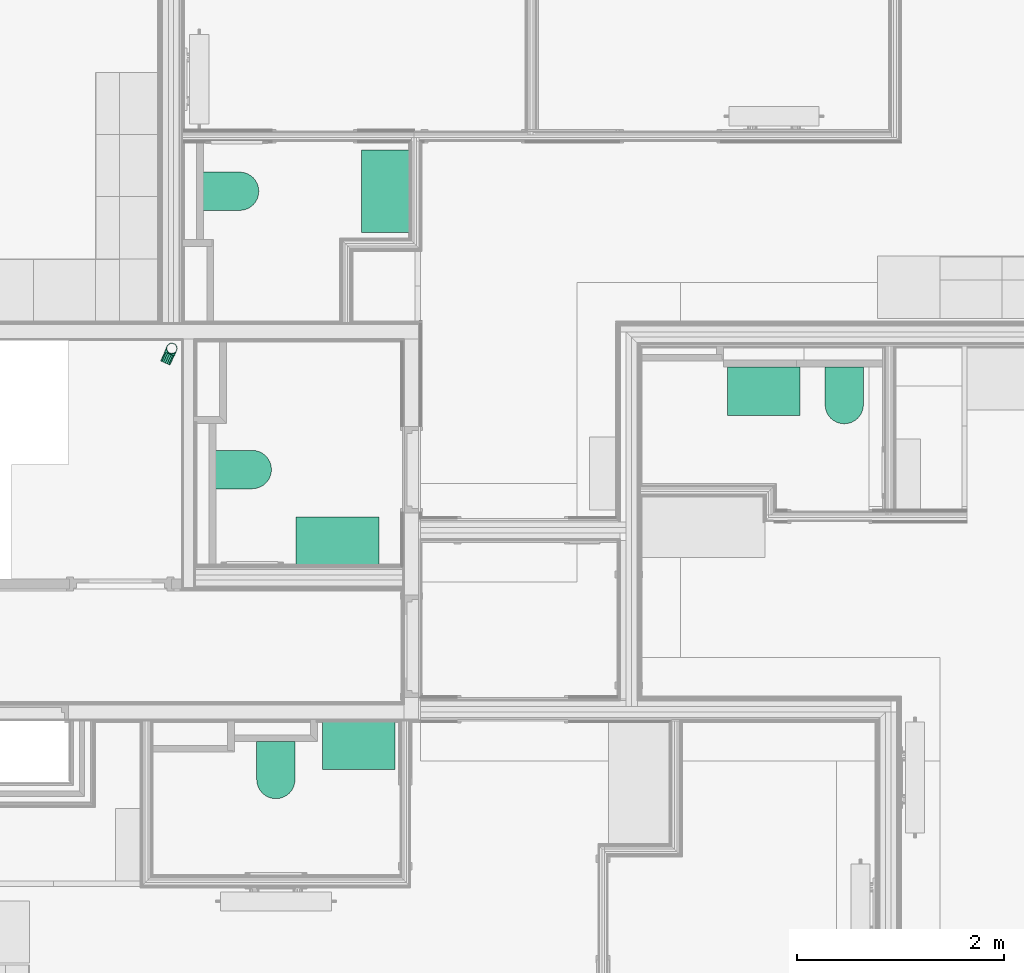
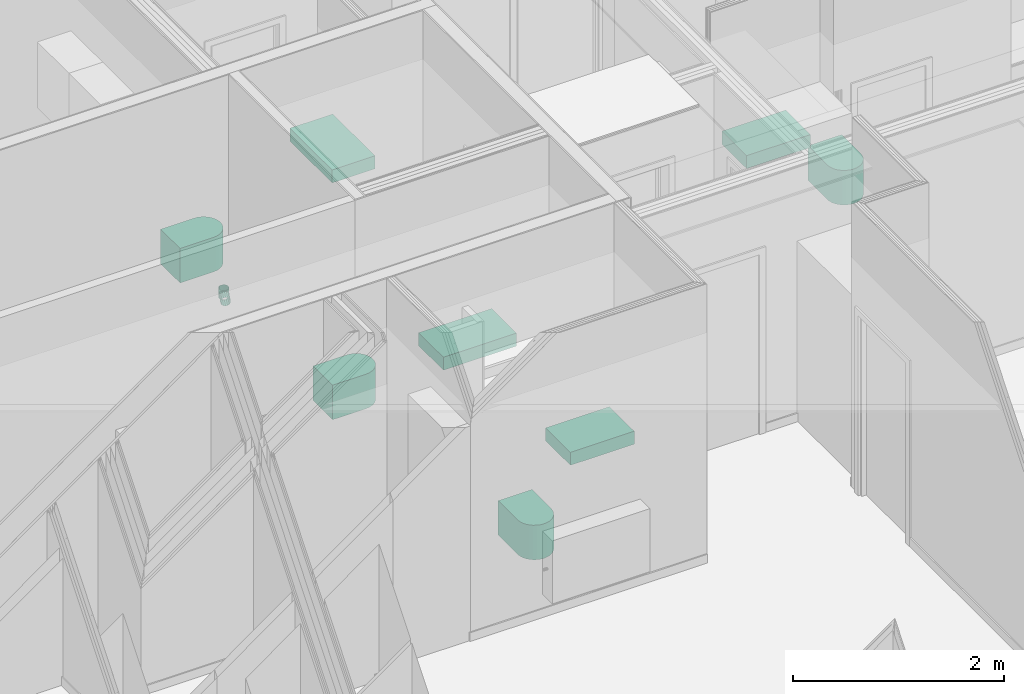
# One storey, part 61 of 64: 8 flow terminals, 1 flow fitting, 1 flow segment.
"""IFC2X3 building model written with IfcOpenShell, lengths in metres."""

import ifcopenshell
import ifcopenshell.guid

model = None  # the IFC model being written
_history = None  # IfcOwnerHistory: only IFC2X3 demands one
_inside = {}  # id of a spatial element -> (the spatial element, [elements in it])
_under = {}  # id of a project, library or spatial element -> (it, [spatial elements below it])
_declared = {}  # id of a project -> (the project, [libraries it declares])
_typed = {}  # id of a type object -> (the type object, [elements of that type])
_made_of = {}  # id of a material, layer set ... -> (it, [elements and type objects made of it])


def new_model(schema):
    """Start an empty IFC model of exactly this schema.

    Asked for "IFC4X3", IfcOpenShell would pick the latest addendum, in which some entities
    have other attributes; the version numbers below select the first issue.
    IFC2X3 requires an IfcOwnerHistory on every rooted entity: one is made here for all.
    """
    global model, _history
    if schema == "IFC4X3":
        model = ifcopenshell.file(schema_version=(4, 3, 0, 0))
    else:
        model = ifcopenshell.file(schema=schema)
    _inside.clear()
    _under.clear()
    _declared.clear()
    _typed.clear()
    _made_of.clear()
    _history = None
    if model.schema == "IFC2X3":
        org = make("IfcOrganization", Name="unknown")
        user = make(
            "IfcPersonAndOrganization",
            ThePerson=make("IfcPerson", FamilyName="unknown"),
            TheOrganization=org,
        )
        app = make(
            "IfcApplication",
            ApplicationDeveloper=org,
            Version="unknown",
            ApplicationFullName="unknown",
            ApplicationIdentifier="unknown",
        )
        _history = make(
            "IfcOwnerHistory",
            OwningUser=user,
            OwningApplication=app,
            ChangeAction="ADDED",
            CreationDate=0,
        )
    return model


def make(cls, **values):
    """One entity of the class cls with the attributes given. An attribute that is None is left unset."""
    return model.create_entity(
        cls, **{name: value for name, value in values.items() if value is not None}
    )


def entity(cls, *values):
    """Any entity or typed value of the class cls, its attributes in the order of the schema. None: left unset."""
    e = model.create_entity(cls)
    for i, value in enumerate(values):
        if value is not None:
            e[i] = value
    return e


def rooted(cls, **values):
    """An entity with a GlobalId (a new one), such as an element, a storey or a relation."""
    return make(cls, GlobalId=ifcopenshell.guid.new(), OwnerHistory=_history, **values)


def si_unit(unit_type, name, prefix=None):
    """IfcSIUnit, for example si_unit("LENGTHUNIT", "METRE", prefix="MILLI")."""
    return make("IfcSIUnit", UnitType=unit_type, Prefix=prefix, Name=name)


def converted_unit(unit_type, name, factor, base, dimensions=None, offset=None):
    """IfcConversionBasedUnit, such as the inch: factor (a typed value) times the base unit."""
    return make(
        "IfcConversionBasedUnit"
        if offset is None
        else "IfcConversionBasedUnitWithOffset",
        ConversionOffset=offset,
        Dimensions=None
        if dimensions is None
        else entity("IfcDimensionalExponents", *dimensions),
        UnitType=unit_type,
        Name=name,
        ConversionFactor=make(
            "IfcMeasureWithUnit", ValueComponent=factor, UnitComponent=base
        ),
    )


def derived_unit(unit_type, elements):
    """IfcDerivedUnit: a product of units, each with its exponent."""
    return make(
        "IfcDerivedUnit",
        Elements=[
            make("IfcDerivedUnitElement", Unit=unit, Exponent=power)
            for unit, power in elements
        ],
        UnitType=unit_type,
    )


def money_unit(currency):
    """IfcMonetaryUnit."""
    return make("IfcMonetaryUnit", Currency=currency)


def assignment(units):
    """IfcUnitAssignment: the units of a project."""
    return None if units is None else make("IfcUnitAssignment", Units=units)


def point(xyz):
    """IfcCartesianPoint."""
    return None if xyz is None else make("IfcCartesianPoint", Coordinates=xyz)


def direction(xyz):
    """IfcDirection."""
    return None if xyz is None else make("IfcDirection", DirectionRatios=xyz)


def frame(location, z_axis=None, x_axis=None):
    """IfcAxis2Placement3D, a coordinate frame: its origin and axes. An axis left out is left unset."""
    return make(
        "IfcAxis2Placement3D",
        Location=point(location),
        Axis=direction(z_axis),
        RefDirection=direction(x_axis),
    )


def origin_with_axes():
    """The frame at (0, 0, 0) with the z axis (0, 0, 1) and the x axis (1, 0, 0) written out."""
    return frame((0.0, 0.0, 0.0), z_axis=(0.0, 0.0, 1.0), x_axis=(1.0, 0.0, 0.0))


def place(relative_to, where):
    """IfcLocalPlacement: puts the frame where relative to a parent placement (None: the world)."""
    return make(
        "IfcLocalPlacement", PlacementRelTo=relative_to, RelativePlacement=where
    )


def context(
    kind, dimensions, precision=None, world=None, true_north=None, identifier=None
):
    """IfcGeometricRepresentationContext, for example the 3D "Model" context."""
    return make(
        "IfcGeometricRepresentationContext",
        ContextIdentifier=identifier,
        ContextType=kind,
        CoordinateSpaceDimension=dimensions,
        Precision=precision,
        WorldCoordinateSystem=world,
        TrueNorth=true_north,
    )


def subcontext(parent, identifier, kind, view, scale=None):
    """IfcGeometricRepresentationSubContext, for example "Body" below "Model"."""
    return make(
        "IfcGeometricRepresentationSubContext",
        ContextIdentifier=identifier,
        ContextType=kind,
        ParentContext=parent,
        TargetScale=scale,
        TargetView=view,
    )


def project(units=None, contexts=None):
    """IfcProject with its units and contexts."""
    return rooted(
        "IfcProject",
        Name="project",
        RepresentationContexts=contexts,
        UnitsInContext=assignment(units),
    )


def spatial(cls, under=None, at=None, **own):
    """A site, building, storey or space (cls), placed at a placement, below another one or the project."""
    s = rooted(cls, ObjectPlacement=at, **own)
    if under is not None:
        _under.setdefault(under.id(), (under, []))[1].append(s)
    return s


def faces_of(points, faces, orient=None, outer=None):
    """IfcFace entities. A face is a list of loops; a loop is a list of indices into points, from 0.

    orient and outer hold one flag for each loop. By default every Orientation is true, the
    first loop of a face is its IfcFaceOuterBound and the others are IfcFaceBound.
    """
    made = []
    for i, loops in enumerate(faces):
        bounds = []
        for j, loop in enumerate(loops):
            is_outer = j == 0 if outer is None else outer[i][j]
            bounds.append(
                make(
                    "IfcFaceOuterBound" if is_outer else "IfcFaceBound",
                    Bound=make("IfcPolyLoop", Polygon=[points[k] for k in loop]),
                    Orientation=True if orient is None else orient[i][j],
                )
            )
        made.append(make("IfcFace", Bounds=bounds))
    return made


def open_shell(faces, orient=None, outer=None):
    """The faces of one IfcOpenShell. surface_model builds it on its shared points."""
    return ("IfcOpenShell", faces, orient, outer)


def faceted_brep(points, faces, orient=None, outer=None, voids=None):
    """IfcFacetedBrep: a solid bounded by flat faces; with voids (closed shells), ...WithVoids."""
    shared = [point(p) for p in points]
    hull = make("IfcClosedShell", CfsFaces=faces_of(shared, faces, orient, outer))
    if voids is None:
        return make("IfcFacetedBrep", Outer=hull)
    return make(
        "IfcFacetedBrepWithVoids",
        Outer=hull,
        Voids=[
            make(cls, CfsFaces=faces_of(shared, fs, o, b)) for cls, fs, o, b in voids
        ],
    )


def surface_model(cls, points, shells):
    """IfcFaceBasedSurfaceModel or IfcShellBasedSurfaceModel (cls): surfaces that need not close."""
    shared = [point(p) for p in points]
    made = [make(c, CfsFaces=faces_of(shared, fs, o, b)) for c, fs, o, b in shells]
    if cls == "IfcFaceBasedSurfaceModel":
        return make(cls, FbsmFaces=made)
    return make(cls, SbsmBoundary=made)


def shape(context_of_items, identifier, shape_type, items):
    """IfcShapeRepresentation: the items that make up one representation, for example the "Body"."""
    return make(
        "IfcShapeRepresentation",
        ContextOfItems=context_of_items,
        RepresentationIdentifier=identifier,
        RepresentationType=shape_type,
        Items=items,
    )


def material(Name=None, Category=None):
    """IfcMaterial."""
    return make("IfcMaterial", Name=Name, Category=Category)


def made_of(thing, what):
    """Note that an element or type object is made of a material, layer set ...; save() writes the relation."""
    if what is not None:
        _made_of.setdefault(what.id(), (what, []))[1].append(thing)
    return thing


def type_object(cls, material=None, **own):
    """A type object (cls), such as IfcWallType, which elements share."""
    return made_of(rooted(cls, **own), material)


def element(
    cls,
    number,
    at=None,
    inside=None,
    cuts=None,
    type_object=None,
    material=None,
    context=None,
    identifier="Body",
    shape_type=None,
    held_by="IfcProductDefinitionShape",
    body=None,
    shapes=None,
    **own,
):
    """One element of the class cls, such as IfcWall. Its Tag is "e" and its number.

    at: its placement. inside: the storey or other place that contains it. cuts: it is an
    opening in that element (IfcRelVoidsElement). A single representation is given by context,
    identifier, shape_type and body (its items); several are given by shapes. held_by: the class
    of the entity that holds the representations. save() writes the other relations.
    """
    e = rooted(cls, Tag="e%d" % number, ObjectPlacement=at, **own)
    if body is not None:
        shapes = [shape(context, identifier, shape_type, body)]
    if shapes is not None:
        e.Representation = make(held_by, Representations=shapes)
    if inside is not None:
        _inside.setdefault(inside.id(), (inside, []))[1].append(e)
    if cuts is not None:
        rooted(
            "IfcRelVoidsElement", RelatingBuildingElement=cuts, RelatedOpeningElement=e
        )
    if type_object is not None:
        _typed.setdefault(type_object.id(), (type_object, []))[1].append(e)
    return made_of(e, material)


def aggregate(whole, parts):
    """IfcRelAggregates: a whole, such as a stair, and the parts it consists of."""
    return rooted("IfcRelAggregates", RelatingObject=whole, RelatedObjects=parts)


def save(model, path):
    """Write the relations noted so far, then the file.

    IfcRelAggregates (storeys below a building ...), IfcRelContainedInSpatialStructure (elements
    in a storey), IfcRelDefinesByType, IfcRelAssociatesMaterial and IfcRelDeclares: one each for
    every whole, place, type object, material and project.
    """
    for whole, parts in _under.values():
        aggregate(whole, parts)
    for where, things in _inside.values():
        rooted(
            "IfcRelContainedInSpatialStructure",
            RelatedElements=things,
            RelatingStructure=where,
        )
    for kind, things in _typed.values():
        rooted("IfcRelDefinesByType", RelatedObjects=things, RelatingType=kind)
    for what, things in _made_of.values():
        rooted("IfcRelAssociatesMaterial", RelatedObjects=things, RelatingMaterial=what)
    for by, libraries in _declared.values():
        rooted("IfcRelDeclares", RelatingContext=by, RelatedDefinitions=libraries)
    model.write(path)


model = new_model("IFC2X3")

# Units and contexts
model_context = context("Model", 3, precision=1e-05, world=origin_with_axes(), true_north=direction((0.0, 1.0)))
body_context = subcontext(model_context, "Body", "Model", "MODEL_VIEW", scale=1.0)
ifc_project = project(units=[si_unit("LENGTHUNIT", "METRE"), si_unit("AREAUNIT", "SQUARE_METRE"), si_unit("VOLUMEUNIT", "CUBIC_METRE"), si_unit("ABSORBEDDOSEUNIT", "GRAY"), si_unit("AMOUNTOFSUBSTANCEUNIT", "MOLE"), si_unit("DOSEEQUIVALENTUNIT", "SIEVERT"), si_unit("ELECTRICCAPACITANCEUNIT", "FARAD"), si_unit("ELECTRICCHARGEUNIT", "COULOMB"), si_unit("ELECTRICCONDUCTANCEUNIT", "SIEMENS"), si_unit("ELECTRICCURRENTUNIT", "AMPERE"), si_unit("ELECTRICRESISTANCEUNIT", "OHM"), si_unit("ELECTRICVOLTAGEUNIT", "VOLT"), si_unit("ENERGYUNIT", "JOULE"), si_unit("FORCEUNIT", "NEWTON"), si_unit("FREQUENCYUNIT", "HERTZ"), si_unit("ILLUMINANCEUNIT", "LUX"), si_unit("INDUCTANCEUNIT", "HENRY"), si_unit("LUMINOUSFLUXUNIT", "LUMEN"), si_unit("LUMINOUSINTENSITYUNIT", "CANDELA"), si_unit("MAGNETICFLUXDENSITYUNIT", "TESLA"), si_unit("MAGNETICFLUXUNIT", "WEBER"), si_unit("MASSUNIT", "GRAM"), converted_unit("PLANEANGLEUNIT", "degree", entity("IfcReal", 0.0174532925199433), si_unit("PLANEANGLEUNIT", "RADIAN"), dimensions=[0, 0, 0, 0, 0, 0, 0]), si_unit("POWERUNIT", "WATT"), si_unit("PRESSUREUNIT", "PASCAL"), si_unit("RADIOACTIVITYUNIT", "BECQUEREL"), si_unit("SOLIDANGLEUNIT", "STERADIAN"), si_unit("THERMODYNAMICTEMPERATUREUNIT", "KELVIN"), si_unit("TIMEUNIT", "SECOND"), derived_unit("ACCELERATIONUNIT", [(si_unit("LENGTHUNIT", "METRE"), 1), (si_unit("TIMEUNIT", "SECOND"), -2)]), derived_unit("ANGULARVELOCITYUNIT", [(converted_unit("PLANEANGLEUNIT", "degree", entity("IfcReal", 0.0174532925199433), si_unit("PLANEANGLEUNIT", "RADIAN"), dimensions=[0, 0, 0, 0, 0, 0, 0]), 1), (si_unit("TIMEUNIT", "SECOND"), -1)]), derived_unit("CURVATUREUNIT", [(converted_unit("PLANEANGLEUNIT", "degree", entity("IfcReal", 0.0174532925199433), si_unit("PLANEANGLEUNIT", "RADIAN"), dimensions=[0, 0, 0, 0, 0, 0, 0]), 1), (si_unit("LENGTHUNIT", "METRE"), -1)]), derived_unit("DYNAMICVISCOSITYUNIT", [(si_unit("PRESSUREUNIT", "PASCAL"), 1), (si_unit("TIMEUNIT", "SECOND"), 1)]), derived_unit("HEATFLUXDENSITYUNIT", [(si_unit("POWERUNIT", "WATT"), 1), (si_unit("LENGTHUNIT", "METRE"), -2)]), derived_unit("HEATINGVALUEUNIT", [(si_unit("ENERGYUNIT", "JOULE"), 1), (si_unit("MASSUNIT", "GRAM"), -1)]), derived_unit("INTEGERCOUNTRATEUNIT", [(si_unit("TIMEUNIT", "SECOND"), -1)]), derived_unit("IONCONCENTRATIONUNIT", [(si_unit("MASSUNIT", "GRAM"), 1), (si_unit("VOLUMEUNIT", "CUBIC_METRE"), -1)]), derived_unit("ISOTHERMALMOISTURECAPACITYUNIT", [(si_unit("VOLUMEUNIT", "CUBIC_METRE"), 1), (si_unit("MASSUNIT", "GRAM"), -1)]), derived_unit("KINEMATICVISCOSITYUNIT", [(si_unit("AREAUNIT", "SQUARE_METRE"), 1), (si_unit("TIMEUNIT", "SECOND"), -1)]), derived_unit("LINEARFORCEUNIT", [(si_unit("FORCEUNIT", "NEWTON"), 1), (si_unit("LENGTHUNIT", "METRE"), -1)]), derived_unit("LINEARMOMENTUNIT", [(si_unit("FORCEUNIT", "NEWTON"), 1), (si_unit("LENGTHUNIT", "METRE"), -1)]), derived_unit("LINEARSTIFFNESSUNIT", [(si_unit("FORCEUNIT", "NEWTON"), 1), (si_unit("LENGTHUNIT", "METRE"), -1)]), derived_unit("LINEARVELOCITYUNIT", [(si_unit("LENGTHUNIT", "METRE"), 1), (si_unit("TIMEUNIT", "SECOND"), -1)]), derived_unit("LUMINOUSINTENSITYDISTRIBUTIONUNIT", [(si_unit("LUMINOUSINTENSITYUNIT", "CANDELA"), 1), (si_unit("LUMINOUSFLUXUNIT", "LUMEN"), -1)]), derived_unit("MASSDENSITYUNIT", [(si_unit("MASSUNIT", "GRAM"), 1), (si_unit("VOLUMEUNIT", "CUBIC_METRE"), -1)]), derived_unit("MASSFLOWRATEUNIT", [(si_unit("MASSUNIT", "GRAM"), 1), (si_unit("TIMEUNIT", "SECOND"), -1)]), derived_unit("MASSPERLENGTHUNIT", [(si_unit("MASSUNIT", "GRAM"), 1), (si_unit("LENGTHUNIT", "METRE"), -1)]), derived_unit("MODULUSOFELASTICITYUNIT", [(si_unit("FORCEUNIT", "NEWTON"), 1), (si_unit("AREAUNIT", "SQUARE_METRE"), -1)]), derived_unit("MODULUSOFLINEARSUBGRADEREACTIONUNIT", [(si_unit("FORCEUNIT", "NEWTON"), 1), (si_unit("LENGTHUNIT", "METRE"), -2)]), derived_unit("MODULUSOFROTATIONALSUBGRADEREACTIONUNIT", [(si_unit("FORCEUNIT", "NEWTON"), 1), (si_unit("LENGTHUNIT", "METRE"), 1)]), derived_unit("MODULUSOFSUBGRADEREACTIONUNIT", [(si_unit("FORCEUNIT", "NEWTON"), 1), (si_unit("VOLUMEUNIT", "CUBIC_METRE"), -1)]), derived_unit("MOISTUREDIFFUSIVITYUNIT", [(si_unit("VOLUMEUNIT", "CUBIC_METRE"), 1), (si_unit("TIMEUNIT", "SECOND"), -1)]), derived_unit("MOLECULARWEIGHTUNIT", [(si_unit("MASSUNIT", "GRAM"), 1), (si_unit("AMOUNTOFSUBSTANCEUNIT", "MOLE"), -1)]), derived_unit("PLANARFORCEUNIT", [(si_unit("FORCEUNIT", "NEWTON"), 1), (si_unit("LENGTHUNIT", "METRE"), -2)]), derived_unit("ROTATIONALFREQUENCYUNIT", [(si_unit("TIMEUNIT", "SECOND"), -1)]), derived_unit("ROTATIONALMASSUNIT", [(si_unit("MASSUNIT", "GRAM"), 1), (si_unit("LENGTHUNIT", "METRE"), 2)]), derived_unit("ROTATIONALSTIFFNESSUNIT", [(si_unit("FORCEUNIT", "NEWTON"), 1), (si_unit("LENGTHUNIT", "METRE"), 1), (converted_unit("PLANEANGLEUNIT", "degree", entity("IfcReal", 0.0174532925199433), si_unit("PLANEANGLEUNIT", "RADIAN"), dimensions=[0, 0, 0, 0, 0, 0, 0]), -1)]), derived_unit("SECTIONAREAINTEGRALUNIT", [(si_unit("LENGTHUNIT", "METRE"), 5)]), derived_unit("SECTIONMODULUSUNIT", [(si_unit("LENGTHUNIT", "METRE"), 3)]), derived_unit("SHEARMODULUSUNIT", [(si_unit("FORCEUNIT", "NEWTON"), 1), (si_unit("AREAUNIT", "SQUARE_METRE"), -1)]), derived_unit("SOUNDPOWERUNIT", [(si_unit("ENERGYUNIT", "JOULE"), 1), (si_unit("TIMEUNIT", "SECOND"), -1)]), derived_unit("SPECIFICHEATCAPACITYUNIT", [(si_unit("FORCEUNIT", "NEWTON"), 1), (si_unit("MASSUNIT", "GRAM"), -1), (si_unit("THERMODYNAMICTEMPERATUREUNIT", "KELVIN"), -1)]), derived_unit("TEMPERATUREGRADIENTUNIT", [(si_unit("THERMODYNAMICTEMPERATUREUNIT", "KELVIN"), 1), (si_unit("LENGTHUNIT", "METRE"), -1)]), derived_unit("THERMALADMITTANCEUNIT", [(si_unit("POWERUNIT", "WATT"), 1), (si_unit("AREAUNIT", "SQUARE_METRE"), -1), (si_unit("THERMODYNAMICTEMPERATUREUNIT", "KELVIN"), -1)]), derived_unit("THERMALCONDUCTANCEUNIT", [(si_unit("POWERUNIT", "WATT"), 1), (si_unit("LENGTHUNIT", "METRE"), -1), (si_unit("THERMODYNAMICTEMPERATUREUNIT", "KELVIN"), -1)]), derived_unit("THERMALEXPANSIONCOEFFICIENTUNIT", [(si_unit("THERMODYNAMICTEMPERATUREUNIT", "KELVIN"), -1)]), derived_unit("THERMALRESISTANCEUNIT", [(si_unit("AREAUNIT", "SQUARE_METRE"), 1), (si_unit("POWERUNIT", "WATT"), -1)]), derived_unit("THERMALTRANSMITTANCEUNIT", [(si_unit("POWERUNIT", "WATT"), 1), (si_unit("AREAUNIT", "SQUARE_METRE"), -1), (si_unit("THERMODYNAMICTEMPERATUREUNIT", "KELVIN"), -1)]), derived_unit("TORQUEUNIT", [(si_unit("FORCEUNIT", "NEWTON"), 1), (si_unit("LENGTHUNIT", "METRE"), 1)]), derived_unit("VAPORPERMEABILITYUNIT", [(si_unit("MASSUNIT", "GRAM"), 1), (si_unit("TIMEUNIT", "SECOND"), -1)]), derived_unit("VOLUMETRICFLOWRATEUNIT", [(si_unit("VOLUMEUNIT", "CUBIC_METRE"), 1), (si_unit("TIMEUNIT", "SECOND"), -1)]), derived_unit("WARPINGCONSTANTUNIT", [(si_unit("LENGTHUNIT", "METRE"), 6)]), derived_unit("WARPINGMOMENTUNIT", [(si_unit("FORCEUNIT", "NEWTON"), 1), (si_unit("LENGTHUNIT", "METRE"), 2)]), money_unit("GBP")], contexts=[model_context])

# Site, building, storey, space
site_placement = place(None, origin_with_axes())
site = spatial("IfcSite", under=ifc_project, at=site_placement, Name="Site", CompositionType="ELEMENT")
building_placement = place(site_placement, origin_with_axes())
building = spatial("IfcBuilding", under=site, at=building_placement, Name="Building01", CompositionType="ELEMENT")
storey_placement = place(building_placement, frame((0.0, 0.0, 8.64), z_axis=(0.0, 0.0, 1.0), x_axis=(1.0, 0.0, 0.0)))
storey = spatial("IfcBuildingStorey", under=building, at=storey_placement, Name="2F", CompositionType="ELEMENT", Elevation=8.64)
space_1_placement = place(storey_placement, frame((14.606971, 7.454282, 0.017932), z_axis=(0.0, 0.0, 1.0), x_axis=(-1.0, 0.0, 0.0)))
space_1 = spatial("IfcSpace", under=storey, at=space_1_placement, Name="landing", CompositionType="ELEMENT", InteriorOrExteriorSpace="NOTDEFINED")

# Flow segment
ifc_material_1 = material(Name="M_BSUK_Ventilation")
duct_segment_type = type_object("IfcDuctSegmentType", Name="M-RoundDuct", PredefinedType="RIGIDSEGMENT")
placement = place(building_placement, origin_with_axes())
flow_segment_placement = place(placement, frame((15.541302, 8.430558, 9.439648), z_axis=(0.0, 0.0, -1.0), x_axis=(0.40708484, 0.91339035, 0.0)))
element("IfcFlowSegment", 1, at=flow_segment_placement, inside=space_1, type_object=duct_segment_type, material=ifc_material_1, Name="M-RoundDuct", ObjectType="M-RoundDuct", context=body_context, shape_type="Brep", body=[
    faceted_brep([(0.1, 0.0, -0.05), (0.0, 0.0, -0.05), (0.0, 0.019134, -0.046194), (0.1, 0.019134, -0.046194), (0.0, 0.035355, -0.035355), (0.1, 0.035355, -0.035355), (0.0, 0.046194, -0.019134), (0.1, 0.046194, -0.019134), (0.0, 0.05, 0.0), (0.1, 0.05, 0.0), (0.0, 0.046194, 0.019134), (0.1, 0.046194, 0.019134), (0.0, 0.035355, 0.035355), (0.1, 0.035355, 0.035355), (0.0, 0.019134, 0.046194), (0.1, 0.019134, 0.046194), (0.0, 0.0, 0.05), (0.1, 0.0, 0.05), (0.0, -0.019134, 0.046194), (0.1, -0.019134, 0.046194), (0.0, -0.035355, 0.035355), (0.1, -0.035355, 0.035355), (0.0, -0.046194, 0.019134), (0.1, -0.046194, 0.019134), (0.0, -0.05, 0.0), (0.1, -0.05, 0.0), (0.0, -0.046194, -0.019134), (0.1, -0.046194, -0.019134), (0.0, -0.035355, -0.035355), (0.1, -0.035355, -0.035355), (0.0, -0.019134, -0.046194), (0.1, -0.019134, -0.046194)], [[[0, 1, 2, 3]], [[3, 2, 4, 5]], [[5, 4, 6, 7]], [[7, 6, 8, 9]], [[9, 8, 10, 11]], [[11, 10, 12, 13]], [[13, 12, 14, 15]], [[15, 14, 16, 17]], [[17, 16, 18, 19]], [[19, 18, 20, 21]], [[21, 20, 22, 23]], [[23, 22, 24, 25]], [[25, 24, 26, 27]], [[27, 26, 28, 29]], [[29, 28, 30, 31]], [[31, 30, 1, 0]]]),
])

# Flow fitting
ifc_material_2 = material(Name="M_BSUK_ColdWater")
pipe_fitting_type = type_object("IfcPipeFittingType", Name="M-BmpTee-DefaultTee", PredefinedType="JUNCTION")
flow_fitting_placement = place(placement, frame((15.604265, 8.57241, 9.389919), z_axis=(0.39563745, 0.91840678, 0.0), x_axis=(0.0, 0.0, 1.0)))
element("IfcFlowFitting", 2, at=flow_fitting_placement, inside=space_1, type_object=pipe_fitting_type, material=ifc_material_2, Name="M-BmpTee-DefaultTee", ObjectType="M-BmpTee-DefaultTee", context=body_context, shape_type="SurfaceModel", body=[
    surface_model("IfcShellBasedSurfaceModel", [(0.068757, 0.046194, -0.019134), (0.06921, 0.046194, -0.055386), (0.050077, 0.05, -0.055626), (0.085182, 0.035355, -0.035355), (0.08543, 0.035355, -0.055184), (0.096157, 0.019134, -0.046194), (0.096268, 0.019134, -0.055048), (0.099038, 0.009755, -0.049039), (0.100011, 0.0, -0.05), (0.100073, 0.0, -0.055001), (0.099038, -0.009755, -0.049039), (0.096157, -0.019134, -0.046194), (0.096268, -0.019134, -0.055048), (0.091478, -0.027779, -0.041573), (0.085182, -0.035355, -0.035355), (0.08543, -0.035355, -0.055184), (0.07751, -0.041573, -0.027779), (0.068757, -0.046194, -0.019134), (0.06921, -0.046194, -0.055386), (0.059259, -0.049039, -0.009755), (0.049382, -0.05, 0.0), (0.050077, -0.05, -0.055626), (0.030485, -0.046194, -0.019134), (0.030945, -0.046194, -0.055865), (0.014466, -0.035355, -0.035355), (0.014725, -0.035355, -0.056067), (0.003762, -0.019134, -0.046194), (0.003887, -0.019134, -0.056203), (0.000952, -0.009755, -0.049039), (3e-06, 0.0, -0.05), (8.1e-05, 0.0, -0.056251), (0.000952, 0.009755, -0.049039), (0.003762, 0.019134, -0.046194), (0.003887, 0.019134, -0.056203), (0.008325, 0.027779, -0.041573), (0.014466, 0.035355, -0.035355), (0.014725, 0.035355, -0.056067), (0.021948, 0.041573, -0.027779), (0.030485, 0.046194, -0.019134), (0.030945, 0.046194, -0.055865), (0.039749, 0.049039, -0.009755), (0.049382, 0.05, 0.0), (0.008325, -0.027779, -0.041573), (0.021948, -0.041573, -0.027779), (0.039749, -0.049039, -0.009755), (0.091478, 0.027779, -0.041573), (0.07751, 0.041573, -0.027779), (0.059259, 0.049039, -0.009755), (-0.005, -0.05, 0.0), (0.105012, -0.05, 0.0), (0.105012, -0.046194, 0.019134), (-0.005, -0.046194, 0.019134), (0.105012, -0.035355, 0.035355), (-0.005, -0.035355, 0.035355), (0.105012, -0.019134, 0.046194), (-0.005, -0.019134, 0.046194), (0.105012, 0.0, 0.05), (-0.005, 0.0, 0.05), (0.105012, 0.019134, 0.046194), (-0.005, 0.019134, 0.046194), (0.105012, 0.035355, 0.035355), (-0.005, 0.035355, 0.035355), (0.105012, 0.046194, 0.019134), (-0.005, 0.046194, 0.019134), (0.105012, 0.05, 0.0), (-0.005, 0.05, 0.0), (0.105012, -0.046194, -0.019134), (0.105012, -0.035355, -0.035355), (0.105012, -0.019134, -0.046194), (0.105012, 0.0, -0.05), (0.105012, 0.019134, -0.046194), (0.105012, 0.035355, -0.035355), (0.105012, 0.046194, -0.019134), (-0.005, 0.046194, -0.019134), (-0.005, 0.035355, -0.035355), (-0.005, 0.019134, -0.046194), (-0.005, 0.0, -0.05), (-0.005, -0.019134, -0.046194), (-0.005, -0.035355, -0.035355), (-0.005, -0.046194, -0.019134)], [open_shell([[[0, 1, 2]], [[3, 4, 1]], [[5, 6, 4]], [[7, 8, 9]], [[10, 11, 12]], [[13, 14, 15]], [[16, 17, 18]], [[19, 20, 21]], [[22, 23, 21]], [[24, 25, 23]], [[26, 27, 25]], [[28, 29, 30]], [[31, 32, 33]], [[34, 35, 36]], [[37, 38, 39]], [[40, 41, 2]], [[38, 40, 2]], [[2, 39, 38]], [[35, 37, 39]], [[39, 36, 35]], [[32, 34, 36]], [[36, 33, 32]], [[31, 33, 30]], [[30, 29, 31]], [[27, 26, 28]], [[30, 27, 28]], [[25, 24, 42]], [[25, 42, 26]], [[23, 22, 43]], [[23, 43, 24]], [[21, 20, 44]], [[21, 44, 22]], [[17, 19, 21]], [[21, 18, 17]], [[14, 16, 18]], [[18, 15, 14]], [[11, 13, 15]], [[15, 12, 11]], [[10, 12, 9]], [[9, 8, 10]], [[6, 5, 7]], [[9, 6, 7]], [[4, 3, 45]], [[4, 45, 5]], [[1, 0, 46]], [[1, 46, 3]], [[2, 41, 47]], [[2, 47, 0]], [[48, 20, 49, 50, 51]], [[51, 50, 52, 53]], [[53, 52, 54, 55]], [[55, 54, 56, 57]], [[57, 56, 58, 59]], [[59, 58, 60, 61]], [[61, 60, 62, 63]], [[63, 62, 64, 41, 65]], [[17, 66, 49]], [[14, 67, 66]], [[11, 68, 67]], [[10, 8, 69]], [[7, 5, 70]], [[45, 3, 71]], [[46, 0, 72]], [[47, 41, 64]], [[38, 73, 65]], [[35, 74, 73]], [[32, 75, 74]], [[31, 29, 76]], [[28, 26, 77]], [[42, 24, 78]], [[43, 22, 79]], [[44, 20, 48]], [[22, 44, 48]], [[48, 79, 22]], [[24, 43, 79]], [[79, 78, 24]], [[26, 42, 78]], [[78, 77, 26]], [[28, 77, 76]], [[76, 29, 28]], [[75, 32, 31]], [[76, 75, 31]], [[74, 35, 34]], [[74, 34, 32]], [[73, 38, 37]], [[73, 37, 35]], [[65, 41, 40]], [[65, 40, 38]], [[0, 47, 64]], [[64, 72, 0]], [[3, 46, 72]], [[72, 71, 3]], [[5, 45, 71]], [[71, 70, 5]], [[7, 70, 69]], [[69, 8, 7]], [[68, 11, 10]], [[69, 68, 10]], [[67, 14, 13]], [[67, 13, 11]], [[66, 17, 16]], [[66, 16, 14]], [[49, 20, 19]], [[49, 19, 17]]])]),
])

# Space
space_2_placement = place(storey_placement, frame((15.83, 8.82, 0.017975), z_axis=(0.0, 0.0, 1.0), x_axis=(0.0, -1.0, 0.0)))
space_2 = spatial("IfcSpace", under=storey, at=space_2_placement, Name="09", CompositionType="ELEMENT", InteriorOrExteriorSpace="NOTDEFINED")

# Flow terminals
sanitary_terminal_type_1 = type_object("IfcSanitaryTerminalType", Name="SHE_A-Sink_47x80", PredefinedType="NOTDEFINED")
for number, where, z_axis, x_axis, name in (
    (3, (17.2, 6.71, 0.825), (0.0, 0.0, 1.0), (0.0, -1.0, 0.0), "09"),
    (4, (17.67, 10.087491, 0.825), (0.0, 0.0, 1.0), (1.0, 0.0, 0.0), "09"),
):
    element("IfcFlowTerminal", number, at=place(storey_placement, frame(where, z_axis=z_axis, x_axis=x_axis)), inside=space_2, type_object=sanitary_terminal_type_1, Name=name, ObjectType="SHE_A-Sink_47x80", context=body_context, shape_type="Brep", body=[
        faceted_brep([(-0.235, 0.4, -0.075), (-0.235, 0.4, 0.075), (0.235, 0.4, 0.075), (0.235, 0.4, -0.075), (-0.235, -0.4, -0.075), (-0.235, -0.4, 0.075), (0.235, -0.4, -0.075), (0.235, -0.4, 0.075)], [[[0, 1, 2, 3]], [[4, 5, 1, 0]], [[6, 7, 5, 4]], [[3, 2, 7, 6]], [[1, 5, 7, 2]], [[3, 6, 4, 0]]]),
    ])

# Space
space_3_placement = place(storey_placement, frame((20.122661, 5.205, 0.017975), z_axis=(0.0, 0.0, 1.0), x_axis=(1.0, 0.0, 0.0)))
space_3 = spatial("IfcSpace", under=storey, at=space_3_placement, Name="10", CompositionType="ELEMENT", InteriorOrExteriorSpace="NOTDEFINED")

# Flow terminal
sanitary_terminal_type_2 = type_object("IfcSanitaryTerminalType", Name="SHE_A-Toilet_base", PredefinedType="NOTDEFINED")
flow_terminal_1_placement = place(storey_placement, frame((22.088153, 8.119998, 0.2), z_axis=(0.0, 0.0, 1.0), x_axis=(0.0, -1.0, 0.0)))
element("IfcFlowTerminal", 5, at=flow_terminal_1_placement, inside=space_3, type_object=sanitary_terminal_type_2, Name="10", ObjectType="SHE_A-Toilet_base", context=body_context, shape_type="Brep", body=[
    faceted_brep([(0.089995, 0.185008, -0.2), (0.126088, 0.181454, -0.2), (0.160795, 0.170926, -0.2), (0.19278, 0.153829, -0.2), (0.220816, 0.130821, -0.2), (0.243824, 0.102785, -0.2), (0.26092, 0.0708, -0.2), (0.271448, 0.036093, -0.2), (0.275003, 0.0, -0.2), (0.271448, -0.036093, -0.2), (0.26092, -0.0708, -0.2), (0.243824, -0.102785, -0.2), (0.220816, -0.130821, -0.2), (0.19278, -0.153829, -0.2), (0.160795, -0.170926, -0.2), (0.126088, -0.181454, -0.2), (0.089995, -0.185009, -0.2), (-0.275003, -0.185009, -0.2), (-0.275003, 0.185008, -0.2), (-0.275003, 0.185008, 0.2), (-0.275003, -0.185009, 0.2), (0.089995, -0.185009, 0.2), (0.126088, -0.181454, 0.2), (0.160795, -0.170926, 0.2), (0.19278, -0.153829, 0.2), (0.220816, -0.130821, 0.2), (0.243824, -0.102785, 0.2), (0.26092, -0.0708, 0.2), (0.271448, -0.036093, 0.2), (0.275003, 0.0, 0.2), (0.271448, 0.036093, 0.2), (0.26092, 0.0708, 0.2), (0.243824, 0.102785, 0.2), (0.220816, 0.130821, 0.2), (0.19278, 0.153829, 0.2), (0.160795, 0.170926, 0.2), (0.126088, 0.181454, 0.2), (0.089995, 0.185008, 0.2)], [[[0, 1, 2, 3, 4, 5, 6, 7, 8, 9, 10, 11, 12, 13, 14, 15, 16, 17, 18]], [[19, 20, 21, 22, 23, 24, 25, 26, 27, 28, 29, 30, 31, 32, 33, 34, 35, 36, 37]], [[15, 22, 21, 16]], [[14, 23, 22, 15]], [[13, 24, 23, 14]], [[12, 25, 24, 13]], [[11, 26, 25, 12]], [[10, 27, 26, 11]], [[9, 28, 27, 10]], [[8, 29, 28, 9]], [[7, 30, 29, 8]], [[6, 31, 30, 7]], [[5, 32, 31, 6]], [[4, 33, 32, 5]], [[3, 34, 33, 4]], [[2, 35, 34, 3]], [[1, 36, 35, 2]], [[0, 37, 36, 1]], [[16, 21, 20, 17]], [[17, 20, 19, 18]], [[18, 19, 37, 0]]]),
])

# Space
space_4_placement = place(storey_placement, frame((15.83, 8.65, 0.017975), z_axis=(0.0, 0.0, 1.0), x_axis=(0.0, -1.0, 0.0)))
space_4 = spatial("IfcSpace", under=storey, at=space_4_placement, Name="bath", CompositionType="ELEMENT", InteriorOrExteriorSpace="NOTDEFINED")

# Flow terminal
flow_terminal_2_placement = place(storey_placement, frame((16.290003, 7.40388, 0.2), z_axis=(0.0, 0.0, 1.0), x_axis=(1.0, 0.0, 0.0)))
element("IfcFlowTerminal", 6, at=flow_terminal_2_placement, inside=space_4, type_object=sanitary_terminal_type_2, Name="09", ObjectType="SHE_A-Toilet_base", context=body_context, shape_type="Brep", body=[
    faceted_brep([(0.089995, 0.185008, -0.2), (0.126088, 0.181454, -0.2), (0.160795, 0.170926, -0.2), (0.19278, 0.153829, -0.2), (0.220816, 0.130821, -0.2), (0.243824, 0.102785, -0.2), (0.26092, 0.0708, -0.2), (0.271448, 0.036093, -0.2), (0.275003, 0.0, -0.2), (0.271448, -0.036093, -0.2), (0.26092, -0.0708, -0.2), (0.243824, -0.102785, -0.2), (0.220816, -0.130821, -0.2), (0.19278, -0.153829, -0.2), (0.160795, -0.170926, -0.2), (0.126088, -0.181454, -0.2), (0.089995, -0.185009, -0.2), (-0.275003, -0.185009, -0.2), (-0.275003, 0.185008, -0.2), (-0.275003, 0.185008, 0.2), (-0.275003, -0.185009, 0.2), (0.089995, -0.185009, 0.2), (0.126088, -0.181454, 0.2), (0.160795, -0.170926, 0.2), (0.19278, -0.153829, 0.2), (0.220816, -0.130821, 0.2), (0.243824, -0.102785, 0.2), (0.26092, -0.0708, 0.2), (0.271448, -0.036093, 0.2), (0.275003, 0.0, 0.2), (0.271448, 0.036093, 0.2), (0.26092, 0.0708, 0.2), (0.243824, 0.102785, 0.2), (0.220816, 0.130821, 0.2), (0.19278, 0.153829, 0.2), (0.160795, 0.170926, 0.2), (0.126088, 0.181454, 0.2), (0.089995, 0.185008, 0.2)], [[[0, 1, 2, 3, 4, 5, 6, 7, 8, 9, 10, 11, 12, 13, 14, 15, 16, 17, 18]], [[19, 20, 21, 22, 23, 24, 25, 26, 27, 28, 29, 30, 31, 32, 33, 34, 35, 36, 37]], [[15, 22, 21, 16]], [[14, 23, 22, 15]], [[13, 24, 23, 14]], [[12, 25, 24, 13]], [[11, 26, 25, 12]], [[10, 27, 26, 11]], [[9, 28, 27, 10]], [[8, 29, 28, 9]], [[7, 30, 29, 8]], [[6, 31, 30, 7]], [[5, 32, 31, 6]], [[4, 33, 32, 5]], [[3, 34, 33, 4]], [[2, 35, 34, 3]], [[1, 36, 35, 2]], [[0, 37, 36, 1]], [[16, 21, 20, 17]], [[17, 20, 19, 18]], [[18, 19, 37, 0]]]),
])

# Space
space_5_placement = place(storey_placement, frame((17.8075, 4.98, 0.017975), z_axis=(0.0, 0.0, 1.0), x_axis=(-1.0, 0.0, 0.0)))
space_5 = spatial("IfcSpace", under=storey, at=space_5_placement, Name="bath", CompositionType="ELEMENT", InteriorOrExteriorSpace="NOTDEFINED")

# Flow terminal
flow_terminal_3_placement = place(storey_placement, frame((16.607508, 4.504997, 0.2), z_axis=(0.0, 0.0, 1.0), x_axis=(0.0, 1.0, 0.0)))
element("IfcFlowTerminal", 7, at=flow_terminal_3_placement, inside=space_5, type_object=sanitary_terminal_type_2, Name="11", ObjectType="SHE_A-Toilet_base", context=body_context, shape_type="Brep", body=[
    faceted_brep([(0.275003, 0.185008, -0.2), (0.275003, -0.185009, -0.2), (-0.089995, -0.185009, -0.2), (-0.126088, -0.181454, -0.2), (-0.160795, -0.170926, -0.2), (-0.19278, -0.153829, -0.2), (-0.220816, -0.130821, -0.2), (-0.243824, -0.102785, -0.2), (-0.26092, -0.0708, -0.2), (-0.271448, -0.036093, -0.2), (-0.275003, 0.0, -0.2), (-0.271448, 0.036093, -0.2), (-0.26092, 0.0708, -0.2), (-0.243824, 0.102785, -0.2), (-0.220816, 0.130821, -0.2), (-0.19278, 0.153829, -0.2), (-0.160795, 0.170926, -0.2), (-0.126088, 0.181454, -0.2), (-0.089995, 0.185008, -0.2), (-0.089995, 0.185008, 0.2), (-0.126088, 0.181454, 0.2), (-0.160795, 0.170926, 0.2), (-0.19278, 0.153829, 0.2), (-0.220816, 0.130821, 0.2), (-0.243824, 0.102785, 0.2), (-0.26092, 0.0708, 0.2), (-0.271448, 0.036093, 0.2), (-0.275003, 0.0, 0.2), (-0.271448, -0.036093, 0.2), (-0.26092, -0.0708, 0.2), (-0.243824, -0.102785, 0.2), (-0.220816, -0.130821, 0.2), (-0.19278, -0.153829, 0.2), (-0.160795, -0.170926, 0.2), (-0.126088, -0.181454, 0.2), (-0.089995, -0.185009, 0.2), (0.275003, -0.185009, 0.2), (0.275003, 0.185008, 0.2)], [[[0, 1, 2, 3, 4, 5, 6, 7, 8, 9, 10, 11, 12, 13, 14, 15, 16, 17, 18]], [[19, 20, 21, 22, 23, 24, 25, 26, 27, 28, 29, 30, 31, 32, 33, 34, 35, 36, 37]], [[2, 35, 34, 3]], [[3, 34, 33, 4]], [[4, 33, 32, 5]], [[5, 32, 31, 6]], [[6, 31, 30, 7]], [[7, 30, 29, 8]], [[8, 29, 28, 9]], [[9, 28, 27, 10]], [[10, 27, 26, 11]], [[11, 26, 25, 12]], [[12, 25, 24, 13]], [[13, 24, 23, 14]], [[14, 23, 22, 15]], [[15, 22, 21, 16]], [[16, 21, 20, 17]], [[17, 20, 19, 18]], [[1, 36, 35, 2]], [[0, 37, 36, 1]], [[18, 19, 37, 0]]]),
])

# Space
space_6_placement = place(storey_placement, frame((15.708132, 10.57, 0.017975), z_axis=(0.0, 0.0, 1.0), x_axis=(0.0, -1.0, 0.0)))
space_6 = spatial("IfcSpace", under=storey, at=space_6_placement, Name="ensuite", CompositionType="ELEMENT", InteriorOrExteriorSpace="NOTDEFINED")

# Flow terminals
flow_terminal_4_placement = place(storey_placement, frame((16.168135, 10.087492, 0.2), z_axis=(0.0, 0.0, 1.0), x_axis=(1.0, 0.0, 0.0)))
element("IfcFlowTerminal", 8, at=flow_terminal_4_placement, inside=space_6, type_object=sanitary_terminal_type_2, Name="09", ObjectType="SHE_A-Toilet_base", context=body_context, shape_type="Brep", body=[
    faceted_brep([(0.089995, 0.185008, -0.2), (0.126088, 0.181454, -0.2), (0.160795, 0.170926, -0.2), (0.19278, 0.153829, -0.2), (0.220816, 0.130821, -0.2), (0.243824, 0.102785, -0.2), (0.26092, 0.0708, -0.2), (0.271448, 0.036093, -0.2), (0.275003, 0.0, -0.2), (0.271448, -0.036093, -0.2), (0.26092, -0.0708, -0.2), (0.243824, -0.102785, -0.2), (0.220816, -0.130821, -0.2), (0.19278, -0.153829, -0.2), (0.160795, -0.170926, -0.2), (0.126088, -0.181454, -0.2), (0.089995, -0.185009, -0.2), (-0.275003, -0.185009, -0.2), (-0.275003, 0.185008, -0.2), (-0.275003, 0.185008, 0.2), (-0.275003, -0.185009, 0.2), (0.089995, -0.185009, 0.2), (0.126088, -0.181454, 0.2), (0.160795, -0.170926, 0.2), (0.19278, -0.153829, 0.2), (0.220816, -0.130821, 0.2), (0.243824, -0.102785, 0.2), (0.26092, -0.0708, 0.2), (0.271448, -0.036093, 0.2), (0.275003, 0.0, 0.2), (0.271448, 0.036093, 0.2), (0.26092, 0.0708, 0.2), (0.243824, 0.102785, 0.2), (0.220816, 0.130821, 0.2), (0.19278, 0.153829, 0.2), (0.160795, 0.170926, 0.2), (0.126088, 0.181454, 0.2), (0.089995, 0.185008, 0.2)], [[[0, 1, 2, 3, 4, 5, 6, 7, 8, 9, 10, 11, 12, 13, 14, 15, 16, 17, 18]], [[19, 20, 21, 22, 23, 24, 25, 26, 27, 28, 29, 30, 31, 32, 33, 34, 35, 36, 37]], [[15, 22, 21, 16]], [[14, 23, 22, 15]], [[13, 24, 23, 14]], [[12, 25, 24, 13]], [[11, 26, 25, 12]], [[10, 27, 26, 11]], [[9, 28, 27, 10]], [[8, 29, 28, 9]], [[7, 30, 29, 8]], [[6, 31, 30, 7]], [[5, 32, 31, 6]], [[4, 33, 32, 5]], [[3, 34, 33, 4]], [[2, 35, 34, 3]], [[1, 36, 35, 2]], [[0, 37, 36, 1]], [[16, 21, 20, 17]], [[17, 20, 19, 18]], [[18, 19, 37, 0]]]),
])
sanitary_terminal_type_3 = type_object("IfcSanitaryTerminalType", Name="SHE_A-Sink_47x70", PredefinedType="NOTDEFINED")
flow_terminal_5_placement = place(storey_placement, frame((21.311162, 8.160003, 0.825), z_axis=(0.0, 0.0, 1.0), x_axis=(0.0, -1.0, 0.0)))
element("IfcFlowTerminal", 9, at=flow_terminal_5_placement, inside=space_3, type_object=sanitary_terminal_type_3, Name="10", ObjectType="SHE_A-Sink_47x70", context=body_context, shape_type="Brep", body=[
    faceted_brep([(-0.235, 0.35, -0.075), (-0.235, 0.35, 0.075), (0.235, 0.35, 0.075), (0.235, 0.35, -0.075), (0.235, -0.35, 0.075), (0.235, -0.35, -0.075), (-0.235, -0.35, 0.075), (-0.235, -0.35, -0.075)], [[[0, 1, 2, 3]], [[3, 2, 4, 5]], [[5, 4, 6, 7]], [[7, 6, 1, 0]], [[1, 6, 4, 2]], [[3, 5, 7, 0]]]),
])
flow_terminal_6_placement = place(storey_placement, frame((17.4075, 4.745, 0.825), z_axis=(0.0, 0.0, 1.0), x_axis=(0.0, -1.0, 0.0)))
element("IfcFlowTerminal", 10, at=flow_terminal_6_placement, inside=space_5, type_object=sanitary_terminal_type_3, Name="11", ObjectType="SHE_A-Sink_47x70", context=body_context, shape_type="Brep", body=[
    faceted_brep([(-0.235, 0.35, -0.075), (-0.235, 0.35, 0.075), (0.235, 0.35, 0.075), (0.235, 0.35, -0.075), (0.235, -0.35, 0.075), (0.235, -0.35, -0.075), (-0.235, -0.35, 0.075), (-0.235, -0.35, -0.075)], [[[0, 1, 2, 3]], [[3, 2, 4, 5]], [[5, 4, 6, 7]], [[7, 6, 1, 0]], [[1, 6, 4, 2]], [[3, 5, 7, 0]]]),
])

save(model, "model.ifc")
